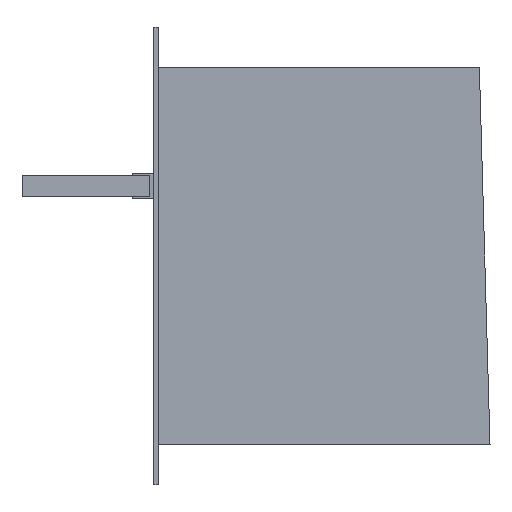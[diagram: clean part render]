
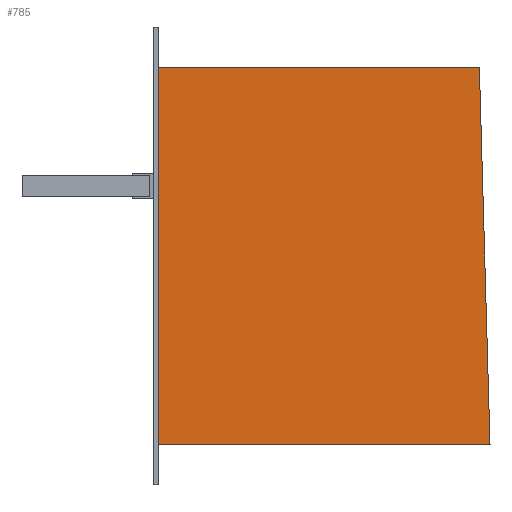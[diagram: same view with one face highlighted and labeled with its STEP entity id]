
A CAD part, left-side view. The second image highlights one B-rep face of the part: STEP entity #785.
In plain terms, the highlighted planar face has unit normal (-1, 0, 0).
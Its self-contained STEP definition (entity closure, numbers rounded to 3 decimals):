
#6 = ORIENTED_EDGE ( 'NONE', *, *, #1053, .T. ) ;
#37 = CARTESIAN_POINT ( 'NONE',  ( -1741., 0., 88.5 ) ) ;
#44 = VECTOR ( 'NONE', #1482, 1000. ) ;
#150 = DIRECTION ( 'NONE',  ( 1., 0., 0. ) ) ;
#390 = VECTOR ( 'NONE', #1429, 1000. ) ;
#392 = EDGE_CURVE ( 'NONE', #1672, #1774, #1210, .T. ) ;
#560 = ORIENTED_EDGE ( 'NONE', *, *, #1887, .T. ) ;
#638 = CARTESIAN_POINT ( 'NONE',  ( -1741., 0., -88.5 ) ) ;
#669 = VECTOR ( 'NONE', #1479, 1000. ) ;
#698 = LINE ( 'NONE', #1300, #1882 ) ;
#717 = FACE_OUTER_BOUND ( 'NONE', #1246, .T. ) ;
#785 = ADVANCED_FACE ( 'NONE', ( #717 ), #1322, .F. ) ;
#1012 = LINE ( 'NONE', #1926, #44 ) ;
#1028 = DIRECTION ( 'NONE',  ( 0., 1., 0. ) ) ;
#1045 = ORIENTED_EDGE ( 'NONE', *, *, #392, .T. ) ;
#1053 = EDGE_CURVE ( 'NONE', #1907, #1170, #1012, .T. ) ;
#1170 = VERTEX_POINT ( 'NONE', #1832 ) ;
#1202 = CARTESIAN_POINT ( 'NONE',  ( -1741., 0., 88.5 ) ) ;
#1210 = LINE ( 'NONE', #1202, #669 ) ;
#1246 = EDGE_LOOP ( 'NONE', ( #560, #6, #1350, #1045 ) ) ;
#1269 = LINE ( 'NONE', #1883, #390 ) ;
#1300 = CARTESIAN_POINT ( 'NONE',  ( -1741., 0., 88.5 ) ) ;
#1322 = PLANE ( 'NONE',  #1557 ) ;
#1350 = ORIENTED_EDGE ( 'NONE', *, *, #1949, .T. ) ;
#1429 = DIRECTION ( 'NONE',  ( 0., -1., 0. ) ) ;
#1441 = CARTESIAN_POINT ( 'NONE',  ( -1741., -156., -88.5 ) ) ;
#1479 = DIRECTION ( 'NONE',  ( 0., 0., -1. ) ) ;
#1482 = DIRECTION ( 'NONE',  ( 0., 0.028, 1. ) ) ;
#1557 = AXIS2_PLACEMENT_3D ( 'NONE', #1929, #150, #1798 ) ;
#1672 = VERTEX_POINT ( 'NONE', #37 ) ;
#1774 = VERTEX_POINT ( 'NONE', #638 ) ;
#1798 = DIRECTION ( 'NONE',  ( 0., 0., -1. ) ) ;
#1832 = CARTESIAN_POINT ( 'NONE',  ( -1741., -151., 88.5 ) ) ;
#1882 = VECTOR ( 'NONE', #1028, 1000. ) ;
#1883 = CARTESIAN_POINT ( 'NONE',  ( -1741., 0., -88.5 ) ) ;
#1887 = EDGE_CURVE ( 'NONE', #1774, #1907, #1269, .T. ) ;
#1907 = VERTEX_POINT ( 'NONE', #1441 ) ;
#1926 = CARTESIAN_POINT ( 'NONE',  ( -1741., -151., 88.5 ) ) ;
#1929 = CARTESIAN_POINT ( 'NONE',  ( -1741., 2., 107.5 ) ) ;
#1949 = EDGE_CURVE ( 'NONE', #1170, #1672, #698, .T. ) ;
